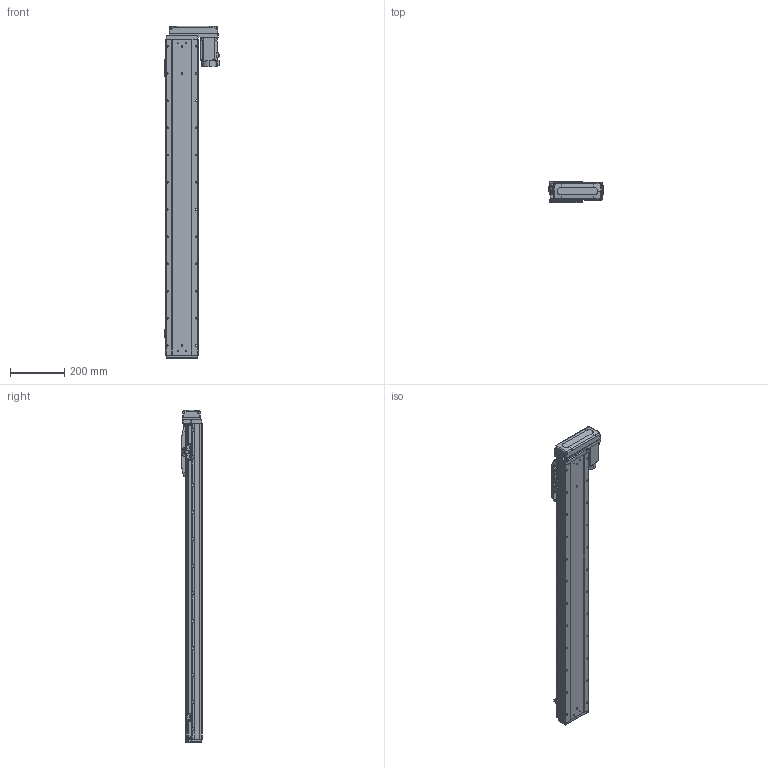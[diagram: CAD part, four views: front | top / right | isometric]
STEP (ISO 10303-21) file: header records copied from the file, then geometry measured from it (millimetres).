
FILE_DESCRIPTION (( 'STEP AP203' ), '1' );
FILE_NAME ('GTH12-950-BL-M40-C4.step', '2025-07-16T03:42:37', ( '' ), ( '' ), 'SwSTEP 2.0', 'SolidWorks 2023', '' );
FILE_SCHEMA (( 'CONFIG_CONTROL_DESIGN' ));
Length unit declared in the file: millimetre
Products named in the file (17): hg-kn43j_-s100_; GTH120-013; CTHA86-033_M40B; GTH120-004; GBT 70.1-M5×16; 感应器总成右; 感应器总成左; GBT 70.1-M3×6; GTH120-003; GTH12-950-BL-M40-C4; GTH80-028; GTH80-022; BTH-M3X5X6; GTH120-001_950; GTH120-006; GBT 70.3-M3×8; GTH120-027-1_GTH120-027-2
Assembly tree (38 placements, depth 2):
  GTH12-950-BL-M40-C4
    GTH120-001_950
    GTH120-003
    GTH120-006
    GTH120-004
    GTH120-013
    GBT 70.1-M3×6  x2
    GBT 70.1-M5×16  x10
    GBT 70.3-M3×8  x4
    GTH80-022
    GTH80-028  x2
    BTH-M3X5X6  x8
    hg-kn43j_-s100_
    CTHA86-033_M40B
    GTH120-027-1_GTH120-027-2
    感应器总成右  x2
    感应器总成左
Bounding box: 203.5 x 76 x 1220.5 mm (x, y, z)
Volume: 8809670.8 mm3; surface area: 763319.5 mm2
Topology: 55 solids, 55 shells, 2474 faces, 5833 edges, 3595 vertices
Faces by surface type: plane 1252, cylinder 730, cone 316, torus 162, sphere 8, bspline 6
Entity records: 54935 total; most frequent: CARTESIAN_POINT 9400, DIRECTION 9324, ORIENTED_EDGE 8658, EDGE_CURVE 4329, AXIS2_PLACEMENT_3D 3252, LINE 2820, VECTOR 2820, VERTEX_POINT 2728
